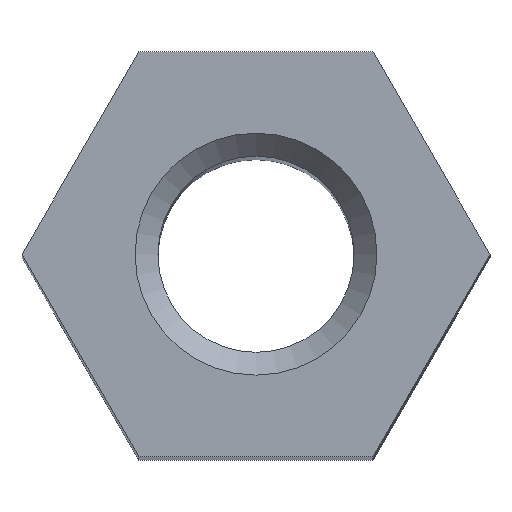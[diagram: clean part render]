
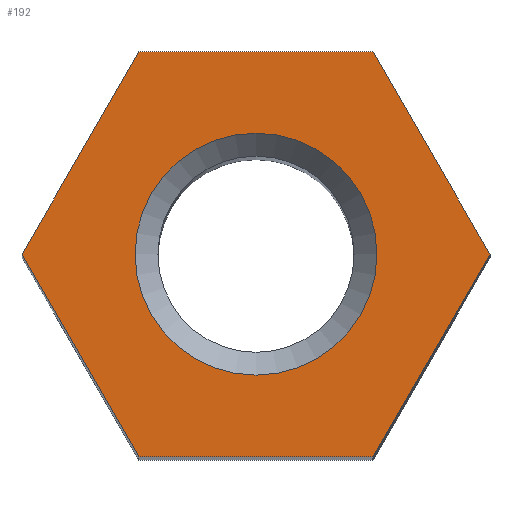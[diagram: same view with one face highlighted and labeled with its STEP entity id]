
A CAD part, top view. The second image highlights one B-rep face of the part: STEP entity #192.
In plain terms, the highlighted planar face has unit normal (0, 0, 1).
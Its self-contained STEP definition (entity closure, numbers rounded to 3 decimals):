
#18=FACE_BOUND('',#40,.T.);
#23=CIRCLE('',#213,1.85);
#27=FACE_OUTER_BOUND('',#39,.T.);
#39=EDGE_LOOP('',(#134,#135,#136,#137,#138,#139));
#40=EDGE_LOOP('',(#140));
#59=LINE('',#294,#77);
#60=LINE('',#296,#78);
#61=LINE('',#298,#79);
#62=LINE('',#300,#80);
#63=LINE('',#302,#81);
#64=LINE('',#303,#82);
#77=VECTOR('',#239,3.58);
#78=VECTOR('',#240,3.58);
#79=VECTOR('',#241,3.58);
#80=VECTOR('',#242,3.58);
#81=VECTOR('',#243,3.58);
#82=VECTOR('',#244,3.58);
#96=VERTEX_POINT('',#292);
#97=VERTEX_POINT('',#293);
#98=VERTEX_POINT('',#295);
#99=VERTEX_POINT('',#297);
#100=VERTEX_POINT('',#299);
#101=VERTEX_POINT('',#301);
#102=VERTEX_POINT('',#304);
#112=EDGE_CURVE('',#96,#97,#59,.T.);
#113=EDGE_CURVE('',#97,#98,#60,.T.);
#114=EDGE_CURVE('',#98,#99,#61,.T.);
#115=EDGE_CURVE('',#99,#100,#62,.T.);
#116=EDGE_CURVE('',#100,#101,#63,.T.);
#117=EDGE_CURVE('',#101,#96,#64,.T.);
#118=EDGE_CURVE('',#102,#102,#23,.T.);
#134=ORIENTED_EDGE('',*,*,#112,.T.);
#135=ORIENTED_EDGE('',*,*,#113,.T.);
#136=ORIENTED_EDGE('',*,*,#114,.T.);
#137=ORIENTED_EDGE('',*,*,#115,.T.);
#138=ORIENTED_EDGE('',*,*,#116,.T.);
#139=ORIENTED_EDGE('',*,*,#117,.T.);
#140=ORIENTED_EDGE('',*,*,#118,.T.);
#172=PLANE('',#212);
#192=ADVANCED_FACE('',(#27,#18),#172,.T.);
#212=AXIS2_PLACEMENT_3D('',#291,#237,#238);
#213=AXIS2_PLACEMENT_3D('',#305,#245,#246);
#237=DIRECTION('center_axis',(0.,0.,1.));
#238=DIRECTION('ref_axis',(1.,0.,0.));
#239=DIRECTION('',(1.,0.,0.));
#240=DIRECTION('',(0.5,0.866,0.));
#241=DIRECTION('',(-0.5,0.866,0.));
#242=DIRECTION('',(-1.,0.,0.));
#243=DIRECTION('',(-0.5,-0.866,0.));
#244=DIRECTION('',(0.5,-0.866,0.));
#245=DIRECTION('center_axis',(0.,0.,-1.));
#246=DIRECTION('ref_axis',(-1.,0.,0.));
#291=CARTESIAN_POINT('Origin',(0.,0.,25.4));
#292=CARTESIAN_POINT('',(-1.79,-3.1,25.4));
#293=CARTESIAN_POINT('',(1.79,-3.1,25.4));
#294=CARTESIAN_POINT('',(-1.79,-3.1,25.4));
#295=CARTESIAN_POINT('',(3.58,0.,25.4));
#296=CARTESIAN_POINT('',(1.79,-3.1,25.4));
#297=CARTESIAN_POINT('',(1.79,3.1,25.4));
#298=CARTESIAN_POINT('',(3.58,0.,25.4));
#299=CARTESIAN_POINT('',(-1.79,3.1,25.4));
#300=CARTESIAN_POINT('',(1.79,3.1,25.4));
#301=CARTESIAN_POINT('',(-3.58,0.,25.4));
#302=CARTESIAN_POINT('',(-1.79,3.1,25.4));
#303=CARTESIAN_POINT('',(-3.58,0.,25.4));
#304=CARTESIAN_POINT('',(-1.85,0.,25.4));
#305=CARTESIAN_POINT('Origin',(0.,0.,25.4));
